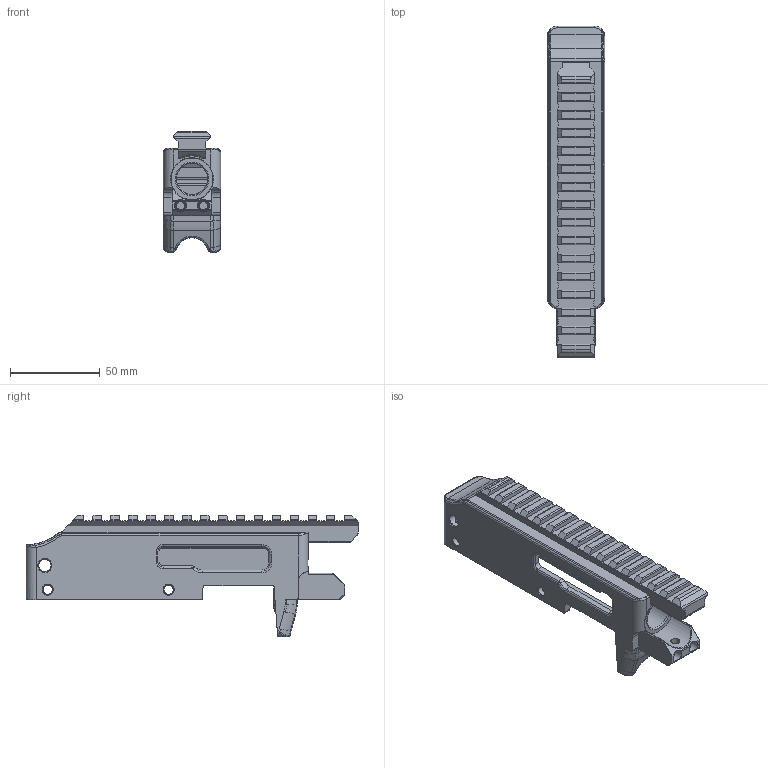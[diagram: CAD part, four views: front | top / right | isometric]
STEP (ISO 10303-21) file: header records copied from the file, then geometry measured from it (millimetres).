
FILE_DESCRIPTION(/* description */ (''),/* implementation_level */ '2;1');
FILE_NAME(/* name */ 'C:/Users/FFFTech/3D Objects/The Bad Stuff/Firearms Related/Firearms Parts/10-22 Parts/Receivers/L-X22 Receivers/STEP Files/Model O/Model O Complete (Do Not Print).step',/* time_stamp */ '2021-08-08T16:47:00-04:00',/* author */ (''),/* organization */ (''),/* preprocessor_version */ 'ST-DEVELOPER v18.1',/* originating_system */ 'Autodesk Translation Framework v10.9.0.1377',/* authorisation */ '');
FILE_SCHEMA (('AUTOMOTIVE_DESIGN { 1 0 10303 214 3 1 1 }'));
Length unit declared in the file: millimetre
Products named in the file (1): Model O Complete
Bounding box: 31.95 x 185.05 x 67.62 mm (x, y, z)
Volume: 109148.6 mm3; surface area: 48145.9 mm2
Topology: 2 solids, 2 shells, 721 faces, 1851 edges, 1132 vertices
Faces by surface type: plane 278, cylinder 231, bspline 110, torus 62, cone 38, sphere 2
Full cylindrical faces by diameter (mm): 1.6 x1, 4.648 x2, 5 x1, 5.175 x4, 6.426 x2, 6.95 x1, 15.6 x1, 17.45 x1, 23.393 x1
Entity records: 24802 total; most frequent: CARTESIAN_POINT 7544, ORIENTED_EDGE 3682, DIRECTION 3528, EDGE_CURVE 1841, AXIS2_PLACEMENT_3D 1287, VERTEX_POINT 1132, LINE 954, VECTOR 954
